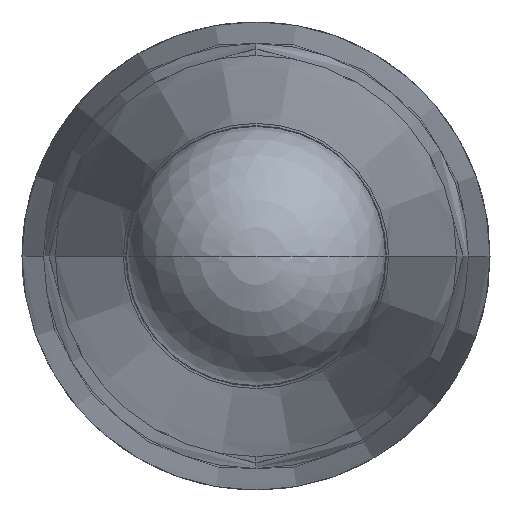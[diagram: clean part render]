
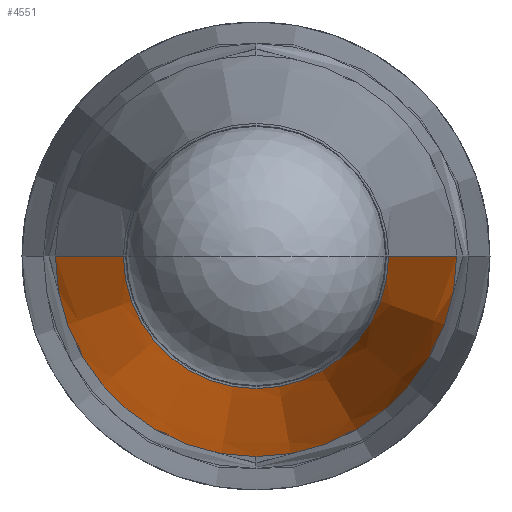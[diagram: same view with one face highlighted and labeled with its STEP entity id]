
A CAD part, front view. The second image highlights one B-rep face of the part: STEP entity #4551.
In plain terms, the highlighted conical face has half-angle 5.185 degrees and reference radius 4.627 mm.
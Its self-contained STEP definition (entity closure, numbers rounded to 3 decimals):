
#584=CARTESIAN_POINT('',(76.774,-82.941,
0.));
#585=DIRECTION('',(0.,-1.,0.));
#586=DIRECTION('',(-1.,0.,0.));
#587=AXIS2_PLACEMENT_3D('',#584,#585,#586);
#599=CARTESIAN_POINT('',(76.774,-82.941,
0.));
#600=DIRECTION('',(0.,-1.,0.));
#601=DIRECTION('',(0.,0.,-1.));
#602=AXIS2_PLACEMENT_3D('',#599,#600,#601);
#619=CARTESIAN_POINT('',(76.774,-103.779,
0.));
#620=DIRECTION('',(0.,-1.,0.));
#621=DIRECTION('',(-1.,0.,0.));
#622=AXIS2_PLACEMENT_3D('',#619,#620,#621);
#639=DIRECTION('',(-0.09,0.996,0.));
#640=VECTOR('',#639,20.924);
#641=CARTESIAN_POINT('',(73.092,-103.779,
0.));
#642=LINE('',#641,#640);
#643=DIRECTION('',(-0.09,-0.996,0.));
#644=VECTOR('',#643,20.924);
#645=CARTESIAN_POINT('',(82.347,-82.941,0.));
#646=LINE('',#645,#644);
#3380=CARTESIAN_POINT('',(71.201,-82.941,
0.));
#3381=VERTEX_POINT('',#3380);
#3382=CARTESIAN_POINT('',(76.774,-82.941,
-5.573));
#3383=VERTEX_POINT('',#3382);
#3384=CARTESIAN_POINT('',(82.347,-82.941,
0.));
#3385=VERTEX_POINT('',#3384);
#3386=CARTESIAN_POINT('',(73.092,-103.779,
0.));
#3387=CARTESIAN_POINT('',(80.456,-103.779,
0.));
#3388=VERTEX_POINT('',#3386);
#3389=VERTEX_POINT('',#3387);
#4536=CARTESIAN_POINT('',(76.774,-93.36,
0.));
#4537=DIRECTION('',(0.,1.,0.));
#4538=DIRECTION('',(-1.,0.,0.));
#4539=AXIS2_PLACEMENT_3D('',#4536,#4537,#4538);
#4540=CONICAL_SURFACE('',#4539,4.627,5.185);
#4542=ORIENTED_EDGE('',*,*,#4541,.T.);
#4544=ORIENTED_EDGE('',*,*,#4543,.F.);
#4545=ORIENTED_EDGE('',*,*,#4527,.F.);
#4546=ORIENTED_EDGE('',*,*,#4489,.F.);
#4548=ORIENTED_EDGE('',*,*,#4547,.F.);
#4549=EDGE_LOOP('',(#4542,#4544,#4545,#4546,#4548));
#4550=FACE_OUTER_BOUND('',#4549,.F.);
#4551=ADVANCED_FACE('',(#4550),#4540,.T.);
#588=CIRCLE('',#587,5.573);
#603=CIRCLE('',#602,5.573);
#623=CIRCLE('',#622,3.682);
#4489=EDGE_CURVE('',#3381,#3383,#588,.T.);
#4527=EDGE_CURVE('',#3383,#3385,#603,.T.);
#4541=EDGE_CURVE('',#3388,#3389,#623,.T.);
#4543=EDGE_CURVE('',#3385,#3389,#646,.T.);
#4547=EDGE_CURVE('',#3388,#3381,#642,.T.);
